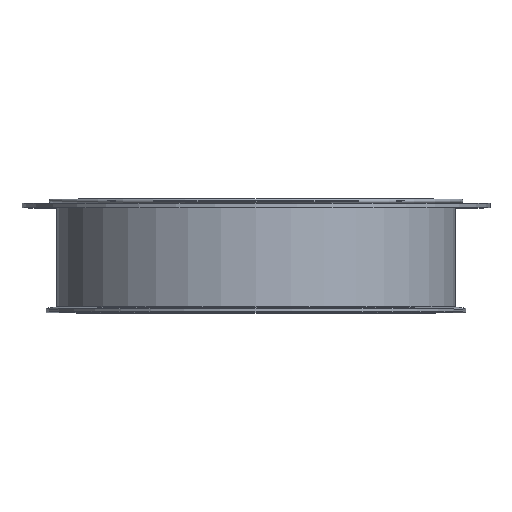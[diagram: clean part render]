
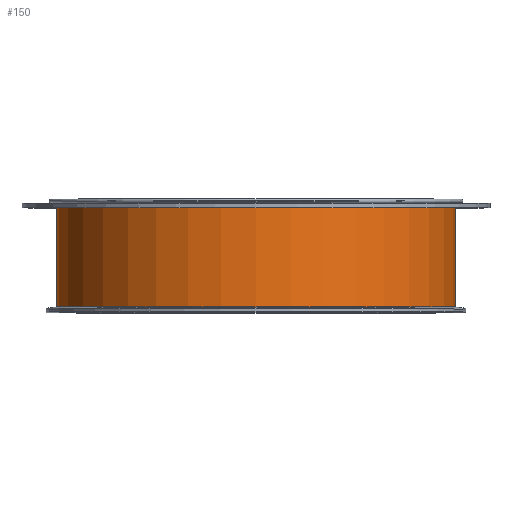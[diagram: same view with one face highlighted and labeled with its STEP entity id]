
A CAD part, top view. The second image highlights one B-rep face of the part: STEP entity #150.
In plain terms, the highlighted cylindrical face has radius 178.3 mm (diameter 356.6 mm), a full revolution.
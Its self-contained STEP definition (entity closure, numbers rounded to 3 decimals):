
#122=CYLINDRICAL_SURFACE('',#590,178.3);
#150=ADVANCED_FACE('',(#233,#234),#122,.T.);
#233=FACE_BOUND('',#313,.T.);
#234=FACE_BOUND('',#314,.T.);
#313=EDGE_LOOP('',(#393));
#314=EDGE_LOOP('',(#394));
#393=ORIENTED_EDGE('',*,*,#474,.F.);
#394=ORIENTED_EDGE('',*,*,#482,.F.);
#434=VERTEX_POINT('',#824);
#442=VERTEX_POINT('',#845);
#474=EDGE_CURVE('',#434,#434,#514,.T.);
#482=EDGE_CURVE('',#442,#442,#522,.T.);
#514=CIRCLE('',#575,178.3);
#522=CIRCLE('',#588,178.3);
#575=AXIS2_PLACEMENT_3D('',#823,#698,#699);
#588=AXIS2_PLACEMENT_3D('',#844,#724,#725);
#590=AXIS2_PLACEMENT_3D('',#847,#728,#729);
#698=DIRECTION('',(0.,-1.,0.));
#699=DIRECTION('',(-1.,0.,0.));
#724=DIRECTION('',(0.,1.,0.));
#725=DIRECTION('',(1.,0.,0.));
#728=DIRECTION('',(0.,1.,0.));
#729=DIRECTION('',(1.,0.,0.));
#823=CARTESIAN_POINT('',(0.,5.196,0.));
#824=CARTESIAN_POINT('',(-178.3,5.196,0.));
#844=CARTESIAN_POINT('',(0.,99.2,0.));
#845=CARTESIAN_POINT('',(178.3,99.2,0.));
#847=CARTESIAN_POINT('',(0.,-192.076,0.));
